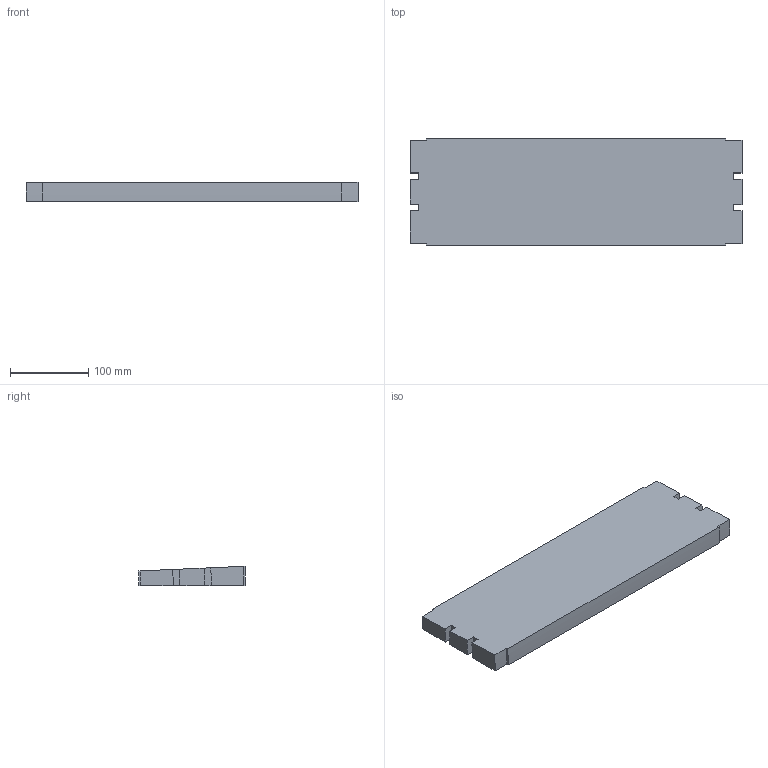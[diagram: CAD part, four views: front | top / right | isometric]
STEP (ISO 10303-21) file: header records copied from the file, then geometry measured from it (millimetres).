
FILE_DESCRIPTION (( 'STEP AP214' ), '1' );
FILE_NAME ('02.150V02.420.N FS-350-MTC-150 Bocht verticaal 2,5°.STEP', '2013-03-29T12:28:59', ( 'Gebruiker' ), ( '' ), 'SwSTEP 2.0', 'SolidWorks 2012', '' );
FILE_SCHEMA (( 'AUTOMOTIVE_DESIGN' ));
Length unit declared in the file: millimetre
Products named in the file (1): 02.150V02.420.N FS-350-MTC-150 Bocht verticaal 2,5°
Bounding box: 423 x 136.41 x 24.78 mm (x, y, z)
Volume: 1242325.4 mm3; surface area: 140198.8 mm2
Topology: 1 solids, 1 shells, 30 faces, 84 edges, 56 vertices
Faces by surface type: plane 16, cylinder 14
Entity records: 1010 total; most frequent: DIRECTION 174, CARTESIAN_POINT 171, ORIENTED_EDGE 168, EDGE_CURVE 84, AXIS2_PLACEMENT_3D 59, VERTEX_POINT 56, LINE 56, VECTOR 56
